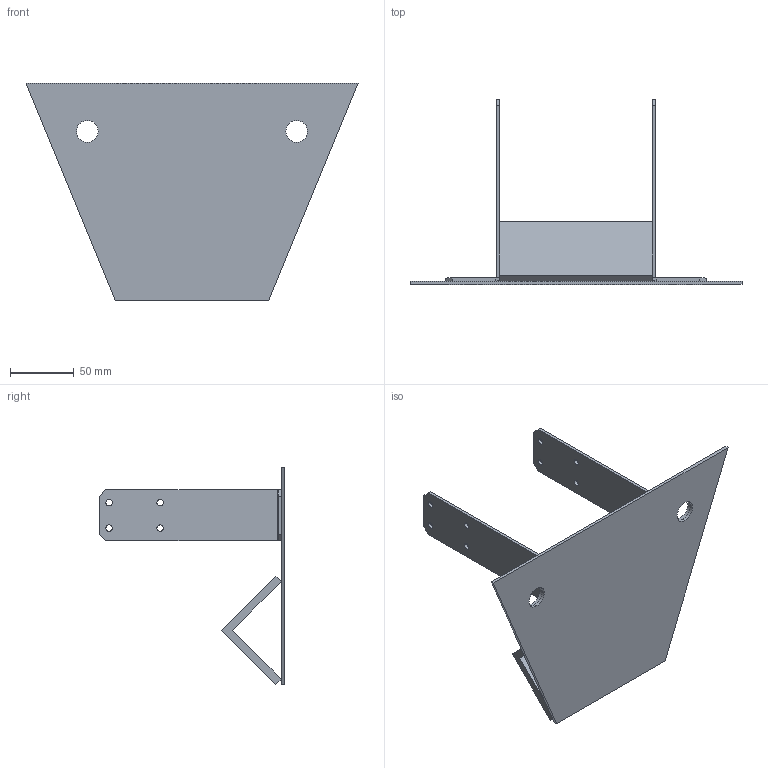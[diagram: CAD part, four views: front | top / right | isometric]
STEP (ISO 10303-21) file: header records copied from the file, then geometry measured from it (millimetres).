
FILE_DESCRIPTION (( 'STEP AP203' ), '1' );
FILE_NAME ('21103.STEP', '2021-05-20T13:21:52', ( '' ), ( '' ), 'SwSTEP 2.0', 'SolidWorks 2013', '' );
FILE_SCHEMA (( 'CONFIG_CONTROL_DESIGN' ));
Length unit declared in the file: millimetre
Products named in the file (4): PLSFB120; PLWESF120; 21103; STSF40X175
Assembly tree (4 placements, depth 2):
  21103
    PLSFB120
    PLWESF120
    STSF40X175  x2
Bounding box: 260 x 144.96 x 170 mm (x, y, z)
Volume: 196231.7 mm3; surface area: 126363.9 mm2
Topology: 4 solids, 4 shells, 74 faces, 182 edges, 116 vertices
Faces by surface type: plane 46, cylinder 28
Entity records: 1814 total; most frequent: DIRECTION 248, CARTESIAN_POINT 236, ORIENTED_EDGE 224, EDGE_CURVE 112, AXIS2_PLACEMENT_3D 84, VECTOR 80, LINE 80, VERTEX_POINT 72
